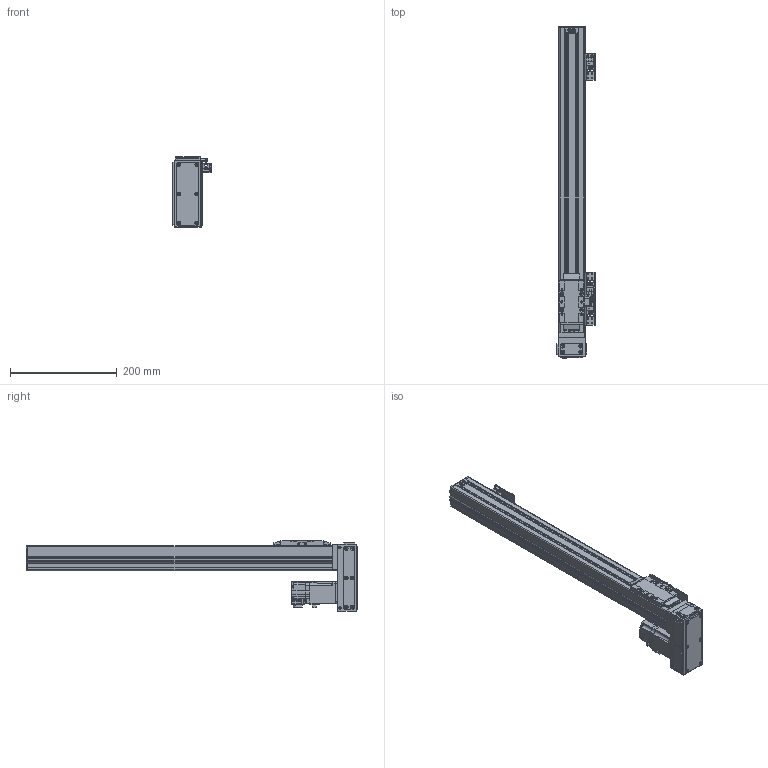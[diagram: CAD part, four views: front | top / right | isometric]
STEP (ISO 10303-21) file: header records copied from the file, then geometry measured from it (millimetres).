
FILE_DESCRIPTION(/* description */ (''),/* implementation_level */ '2;1');
FILE_NAME(/* name */ '\\192.168.0.160\disk1\HAN SHIN Master\B-설계부문\C-표준\B-2024년\BC02-표준도면\+로봇 개선표준도면\홈페이지 표준 도면\홈페이지 최종 작업 폴더\3D\HC\HC50-D10-N-0450-R10.stp',/* time_stamp */ '2025-05-26T17:55:20+09:00',/* author */ ('user'),/* organization */ (''),/* preprocessor_version */ 'ST-DEVELOPER v18.1',/* originating_system */ 'Autodesk Inventor 2022',/* authorisation */ '');
FILE_SCHEMA (('AUTOMOTIVE_DESIGN { 1 0 10303 214 3 1 1 }'));
Length unit declared in the file: millimetre
Products named in the file (27): HC50-D10-N-0200-R10 (높이 변경); HC50 BASE-R1; HC50 REAR BLOCK; HR45 FRONT BLOCK; SENSOR DOG BRK; HC50 SENSOR DOG; ISO 4762 - M3 x 16; HC45 UPCOVER; HC75,90 SHEET PLATE; HC45, HC65 STOPPER; HC50 REAR COVER-R3; SENSOR BRK(EE-SX674A); EE_SX674A; ESF1210 NUT; HC50SIDECOVER000; HC50 TABLE (서버리 테이프); HC75 TABLE COVER; HC45 TABLE SIDE COVER; MAGNET(∅10X3); hg-kr13_; HC50 DS; HC50 D MOTOR PLATE; HR45 MOTOR PLATE 100W; HC50 D BELT COVER; HR45 ACRYL COVER(정면); HR45 ACRYL COVER(상하면); HR45 ACRYL COVER(측면)
Assembly tree (38 placements, depth 3):
  HC50-D10-N-0200-R10 (높이 변경)
    HC50 BASE-R1
    HC50 REAR BLOCK
    HR45 FRONT BLOCK
    SENSOR BRK(EE-SX674A)  x3
    EE_SX674A  x3
    SENSOR DOG BRK
    HC50 SENSOR DOG
    ISO 4762 - M3 x 16  x2
    HC45 UPCOVER
    HC75,90 SHEET PLATE  x2
    HC45, HC65 STOPPER  x2
    MAGNET(∅10X3)  x3
    HC50 REAR COVER-R3
    ESF1210 NUT
    HC50SIDECOVER000  x2
    HC45 TABLE SIDE COVER  x2
    HC50 TABLE (서버리 테이프)
    HC75 TABLE COVER
    hg-kr13_
    HC50 DS
      HC50 D MOTOR PLATE
      HR45 MOTOR PLATE 100W
      HC50 D BELT COVER
      HR45 ACRYL COVER(정면)
      HR45 ACRYL COVER(상하면)
      HR45 ACRYL COVER(측면)  x2
Bounding box: 72 x 623 x 133 mm (x, y, z)
Volume: 714905.1 mm3; surface area: 477950 mm2
Topology: 39 solids, 39 shells, 1555 faces, 4161 edges, 2730 vertices
Faces by surface type: plane 850, cylinder 595, cone 97, bspline 9, torus 4
Full cylindrical faces by diameter (mm): 2.013 x4, 2.459 x91, 3 x2, 3.242 x28, 3.4 x34, 3.5 x34, 4 x8, 4.5 x16, 5 x16, 5.5 x2, 5.6 x2, 5.9 x2, 6 x17, 6.5 x2, 8 x1, 9 x2, 10 x4, 10.5 x3, 12 x1, 15 x3, 18 x1, 21 x2, 22 x2, 24 x1, 24.5 x1, 26 x1, 30 x2
Entity records: 40359 total; most frequent: CARTESIAN_POINT 7753, DIRECTION 6643, ORIENTED_EDGE 6378, EDGE_CURVE 3189, AXIS2_PLACEMENT_3D 2267, VERTEX_POINT 2116, LINE 2109, VECTOR 2109
